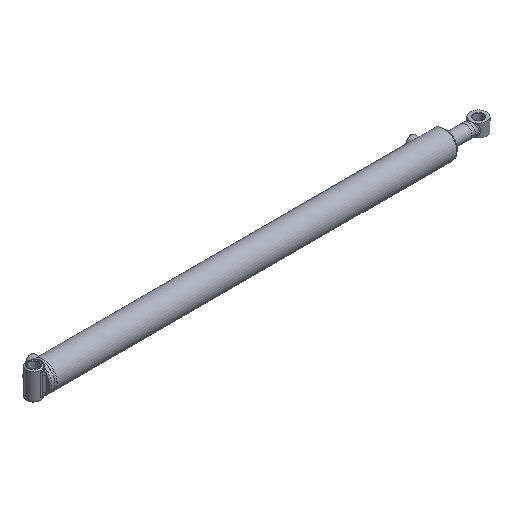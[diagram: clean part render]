
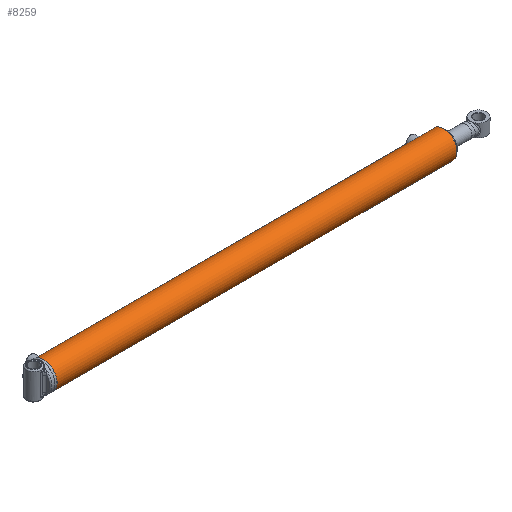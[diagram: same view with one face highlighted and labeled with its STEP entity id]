
A CAD part, isometric view. The second image highlights one B-rep face of the part: STEP entity #8259.
In plain terms, the highlighted cylindrical face has radius 36.513 mm (diameter 73.025 mm), a full revolution.
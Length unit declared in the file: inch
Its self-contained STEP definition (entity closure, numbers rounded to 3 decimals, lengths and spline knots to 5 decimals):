
#713=B_SPLINE_CURVE_WITH_KNOTS('',3,(#12235,#12236,#12237,#12238,#12239,
#12240,#12241,#12242,#12243,#12244),.UNSPECIFIED.,.F.,.F.,(4,2,2,2,4),(0.,
0.17962,0.35924,0.53885,0.71847),
 .UNSPECIFIED.);
#714=B_SPLINE_CURVE_WITH_KNOTS('',3,(#12245,#12246,#12247,#12248,#12249,
#12250,#12251,#12252,#12253,#12254,#12255,#12256,#12257,#12258,#12259,#12260,
#12261,#12262,#12263,#12264,#12265,#12266,#12267,#12268,#12269,#12270),
 .UNSPECIFIED.,.F.,.F.,(4,2,2,2,2,2,2,2,2,2,2,2,4),(0.71847,0.89808,
1.0777,1.25732,1.43694,1.61655,1.79617,
1.97579,2.1554,2.33502,2.51464,2.69425,
2.87387),.UNSPECIFIED.);
#715=B_SPLINE_CURVE_WITH_KNOTS('',3,(#12275,#12276,#12277,#12278,#12279,
#12280,#12281,#12282,#12283,#12284),.UNSPECIFIED.,.F.,.F.,(4,2,2,2,4),(0.,
0.17962,0.35924,0.53885,0.71847),
 .UNSPECIFIED.);
#716=B_SPLINE_CURVE_WITH_KNOTS('',3,(#12285,#12286,#12287,#12288,#12289,
#12290,#12291,#12292,#12293,#12294,#12295,#12296,#12297,#12298,#12299,#12300,
#12301,#12302,#12303,#12304,#12305,#12306,#12307,#12308,#12309,#12310),
 .UNSPECIFIED.,.F.,.F.,(4,2,2,2,2,2,2,2,2,2,2,2,4),(0.71847,0.89808,
1.0777,1.25732,1.43694,1.61655,1.79617,
1.97579,2.1554,2.33502,2.51464,2.69425,
2.87387),.UNSPECIFIED.);
#1063=FACE_BOUND('',#2630,.T.);
#1064=FACE_BOUND('',#2631,.T.);
#1342=LINE('',#12338,#1685);
#1685=VECTOR('',#10083,1.4375);
#2025=CYLINDRICAL_SURFACE('',#9126,1.4375);
#2115=FACE_OUTER_BOUND('',#2629,.T.);
#2629=EDGE_LOOP('',(#5794,#5795,#5796,#5797,#5798,#5799));
#2630=EDGE_LOOP('',(#5800,#5801));
#2631=EDGE_LOOP('',(#5802,#5803));
#3228=CIRCLE('',#9123,1.4375);
#3230=CIRCLE('',#9125,1.4375);
#3231=CIRCLE('',#9127,1.4375);
#3232=CIRCLE('',#9128,1.4375);
#3701=VERTEX_POINT('',#12232);
#3702=VERTEX_POINT('',#12234);
#3703=VERTEX_POINT('',#12272);
#3704=VERTEX_POINT('',#12274);
#3711=VERTEX_POINT('',#12331);
#3712=VERTEX_POINT('',#12332);
#3713=VERTEX_POINT('',#12337);
#3714=VERTEX_POINT('',#12339);
#4507=EDGE_CURVE('',#3702,#3701,#713,.T.);
#4508=EDGE_CURVE('',#3701,#3702,#714,.T.);
#4510=EDGE_CURVE('',#3704,#3703,#715,.T.);
#4511=EDGE_CURVE('',#3703,#3704,#716,.T.);
#4521=EDGE_CURVE('',#3711,#3712,#3228,.T.);
#4523=EDGE_CURVE('',#3712,#3711,#3230,.T.);
#4524=EDGE_CURVE('',#3711,#3713,#1342,.T.);
#4525=EDGE_CURVE('',#3714,#3713,#3231,.T.);
#4526=EDGE_CURVE('',#3713,#3714,#3232,.T.);
#5794=ORIENTED_EDGE('',*,*,#4521,.F.);
#5795=ORIENTED_EDGE('',*,*,#4524,.T.);
#5796=ORIENTED_EDGE('',*,*,#4525,.F.);
#5797=ORIENTED_EDGE('',*,*,#4526,.F.);
#5798=ORIENTED_EDGE('',*,*,#4524,.F.);
#5799=ORIENTED_EDGE('',*,*,#4523,.F.);
#5800=ORIENTED_EDGE('',*,*,#4507,.T.);
#5801=ORIENTED_EDGE('',*,*,#4508,.T.);
#5802=ORIENTED_EDGE('',*,*,#4510,.T.);
#5803=ORIENTED_EDGE('',*,*,#4511,.T.);
#8259=ADVANCED_FACE('',(#2115,#1063,#1064),#2025,.T.);
#9123=AXIS2_PLACEMENT_3D('',#12333,#10075,#10076);
#9125=AXIS2_PLACEMENT_3D('',#12335,#10079,#10080);
#9126=AXIS2_PLACEMENT_3D('',#12336,#10081,#10082);
#9127=AXIS2_PLACEMENT_3D('',#12340,#10084,#10085);
#9128=AXIS2_PLACEMENT_3D('',#12341,#10086,#10087);
#10075=DIRECTION('center_axis',(1.,0.,0.));
#10076=DIRECTION('ref_axis',(0.,-1.,0.));
#10079=DIRECTION('center_axis',(1.,0.,0.));
#10080=DIRECTION('ref_axis',(0.,-1.,0.));
#10081=DIRECTION('center_axis',(1.,0.,0.));
#10082=DIRECTION('ref_axis',(0.,-1.,0.));
#10083=DIRECTION('',(-1.,0.,0.));
#10084=DIRECTION('center_axis',(-1.,0.,0.));
#10085=DIRECTION('ref_axis',(0.,-1.,0.));
#10086=DIRECTION('center_axis',(-1.,0.,0.));
#10087=DIRECTION('ref_axis',(0.,-1.,0.));
#12232=CARTESIAN_POINT('',(0.5925,0.,1.4375));
#12234=CARTESIAN_POINT('',(0.78,-0.1875,1.42522));
#12235=CARTESIAN_POINT('Ctrl Pts',(0.78,-0.1875,1.42522));
#12236=CARTESIAN_POINT('Ctrl Pts',(0.75643,-0.1875,1.42522));
#12237=CARTESIAN_POINT('Ctrl Pts',(0.7313,-0.18278,
1.42586));
#12238=CARTESIAN_POINT('Ctrl Pts',(0.68512,-0.16364,
1.42819));
#12239=CARTESIAN_POINT('Ctrl Pts',(0.66405,-0.14921,
1.42983));
#12240=CARTESIAN_POINT('Ctrl Pts',(0.63079,-0.11595,
1.43291));
#12241=CARTESIAN_POINT('Ctrl Pts',(0.61636,-0.09488,
1.43455));
#12242=CARTESIAN_POINT('Ctrl Pts',(0.59722,-0.0487,
1.43686));
#12243=CARTESIAN_POINT('Ctrl Pts',(0.5925,-0.02357,1.4375));
#12244=CARTESIAN_POINT('Ctrl Pts',(0.5925,0.,1.4375));
#12245=CARTESIAN_POINT('Ctrl Pts',(0.5925,0.,1.4375));
#12246=CARTESIAN_POINT('Ctrl Pts',(0.5925,0.02357,1.4375));
#12247=CARTESIAN_POINT('Ctrl Pts',(0.59722,0.0487,
1.43686));
#12248=CARTESIAN_POINT('Ctrl Pts',(0.61636,0.09488,
1.43455));
#12249=CARTESIAN_POINT('Ctrl Pts',(0.63079,0.11595,
1.43291));
#12250=CARTESIAN_POINT('Ctrl Pts',(0.66405,0.14921,
1.42983));
#12251=CARTESIAN_POINT('Ctrl Pts',(0.68512,0.16364,
1.42819));
#12252=CARTESIAN_POINT('Ctrl Pts',(0.7313,0.18278,
1.42586));
#12253=CARTESIAN_POINT('Ctrl Pts',(0.75643,0.1875,1.42522));
#12254=CARTESIAN_POINT('Ctrl Pts',(0.80357,0.1875,1.42522));
#12255=CARTESIAN_POINT('Ctrl Pts',(0.8287,0.18278,
1.42586));
#12256=CARTESIAN_POINT('Ctrl Pts',(0.87488,0.16364,
1.42819));
#12257=CARTESIAN_POINT('Ctrl Pts',(0.89595,0.14921,
1.42983));
#12258=CARTESIAN_POINT('Ctrl Pts',(0.92921,0.11595,
1.43291));
#12259=CARTESIAN_POINT('Ctrl Pts',(0.94364,0.09488,
1.43455));
#12260=CARTESIAN_POINT('Ctrl Pts',(0.96278,0.0487,
1.43686));
#12261=CARTESIAN_POINT('Ctrl Pts',(0.9675,0.02357,1.4375));
#12262=CARTESIAN_POINT('Ctrl Pts',(0.9675,-0.02357,1.4375));
#12263=CARTESIAN_POINT('Ctrl Pts',(0.96278,-0.0487,
1.43686));
#12264=CARTESIAN_POINT('Ctrl Pts',(0.94364,-0.09488,
1.43455));
#12265=CARTESIAN_POINT('Ctrl Pts',(0.92921,-0.11595,
1.43291));
#12266=CARTESIAN_POINT('Ctrl Pts',(0.89595,-0.14921,
1.42983));
#12267=CARTESIAN_POINT('Ctrl Pts',(0.87488,-0.16364,
1.42819));
#12268=CARTESIAN_POINT('Ctrl Pts',(0.8287,-0.18278,
1.42586));
#12269=CARTESIAN_POINT('Ctrl Pts',(0.80357,-0.1875,1.42522));
#12270=CARTESIAN_POINT('Ctrl Pts',(0.78,-0.1875,1.42522));
#12272=CARTESIAN_POINT('',(41.6095,0.,1.4375));
#12274=CARTESIAN_POINT('',(41.797,-0.1875,1.42522));
#12275=CARTESIAN_POINT('Ctrl Pts',(41.797,-0.1875,1.42522));
#12276=CARTESIAN_POINT('Ctrl Pts',(41.77343,-0.1875,
1.42522));
#12277=CARTESIAN_POINT('Ctrl Pts',(41.7483,-0.18278,
1.42586));
#12278=CARTESIAN_POINT('Ctrl Pts',(41.70212,-0.16364,1.42819));
#12279=CARTESIAN_POINT('Ctrl Pts',(41.68105,-0.14921,
1.42983));
#12280=CARTESIAN_POINT('Ctrl Pts',(41.64779,-0.11595,1.43291));
#12281=CARTESIAN_POINT('Ctrl Pts',(41.63336,-0.09488,
1.43455));
#12282=CARTESIAN_POINT('Ctrl Pts',(41.61422,-0.0487,
1.43686));
#12283=CARTESIAN_POINT('Ctrl Pts',(41.6095,-0.02357,1.4375));
#12284=CARTESIAN_POINT('Ctrl Pts',(41.6095,0.,1.4375));
#12285=CARTESIAN_POINT('Ctrl Pts',(41.6095,0.,1.4375));
#12286=CARTESIAN_POINT('Ctrl Pts',(41.6095,0.02357,1.4375));
#12287=CARTESIAN_POINT('Ctrl Pts',(41.61422,0.0487,
1.43686));
#12288=CARTESIAN_POINT('Ctrl Pts',(41.63336,0.09488,
1.43455));
#12289=CARTESIAN_POINT('Ctrl Pts',(41.64779,0.11595,1.43291));
#12290=CARTESIAN_POINT('Ctrl Pts',(41.68105,0.14921,1.42983));
#12291=CARTESIAN_POINT('Ctrl Pts',(41.70212,0.16364,1.42819));
#12292=CARTESIAN_POINT('Ctrl Pts',(41.7483,0.18278,1.42586));
#12293=CARTESIAN_POINT('Ctrl Pts',(41.77343,0.1875,1.42522));
#12294=CARTESIAN_POINT('Ctrl Pts',(41.82057,0.1875,1.42522));
#12295=CARTESIAN_POINT('Ctrl Pts',(41.8457,0.18278,1.42586));
#12296=CARTESIAN_POINT('Ctrl Pts',(41.89188,0.16364,1.42819));
#12297=CARTESIAN_POINT('Ctrl Pts',(41.91295,0.14921,1.42983));
#12298=CARTESIAN_POINT('Ctrl Pts',(41.94621,0.11595,1.43291));
#12299=CARTESIAN_POINT('Ctrl Pts',(41.96064,0.09488,
1.43455));
#12300=CARTESIAN_POINT('Ctrl Pts',(41.97978,0.0487,
1.43686));
#12301=CARTESIAN_POINT('Ctrl Pts',(41.9845,0.02357,1.4375));
#12302=CARTESIAN_POINT('Ctrl Pts',(41.9845,-0.02357,1.4375));
#12303=CARTESIAN_POINT('Ctrl Pts',(41.97978,-0.0487,
1.43686));
#12304=CARTESIAN_POINT('Ctrl Pts',(41.96064,-0.09488,
1.43455));
#12305=CARTESIAN_POINT('Ctrl Pts',(41.94621,-0.11595,1.43291));
#12306=CARTESIAN_POINT('Ctrl Pts',(41.91295,-0.14921,
1.42983));
#12307=CARTESIAN_POINT('Ctrl Pts',(41.89188,-0.16364,1.42819));
#12308=CARTESIAN_POINT('Ctrl Pts',(41.8457,-0.18278,
1.42586));
#12309=CARTESIAN_POINT('Ctrl Pts',(41.82057,-0.1875,
1.42522));
#12310=CARTESIAN_POINT('Ctrl Pts',(41.797,-0.1875,1.42522));
#12331=CARTESIAN_POINT('',(43.227,1.4375,0.));
#12332=CARTESIAN_POINT('',(43.227,0.,-1.4375));
#12333=CARTESIAN_POINT('Origin',(43.227,0.,0.));
#12335=CARTESIAN_POINT('Origin',(43.227,0.,0.));
#12336=CARTESIAN_POINT('Origin',(0.,0.,0.));
#12337=CARTESIAN_POINT('',(0.09382,1.4375,0.));
#12338=CARTESIAN_POINT('',(0.,1.4375,0.));
#12339=CARTESIAN_POINT('',(0.09382,0.,1.4375));
#12340=CARTESIAN_POINT('Origin',(0.09382,0.,0.));
#12341=CARTESIAN_POINT('Origin',(0.09382,0.,0.));
